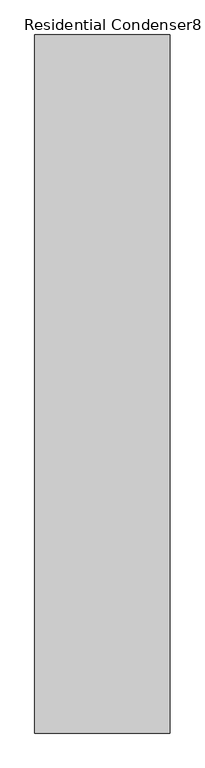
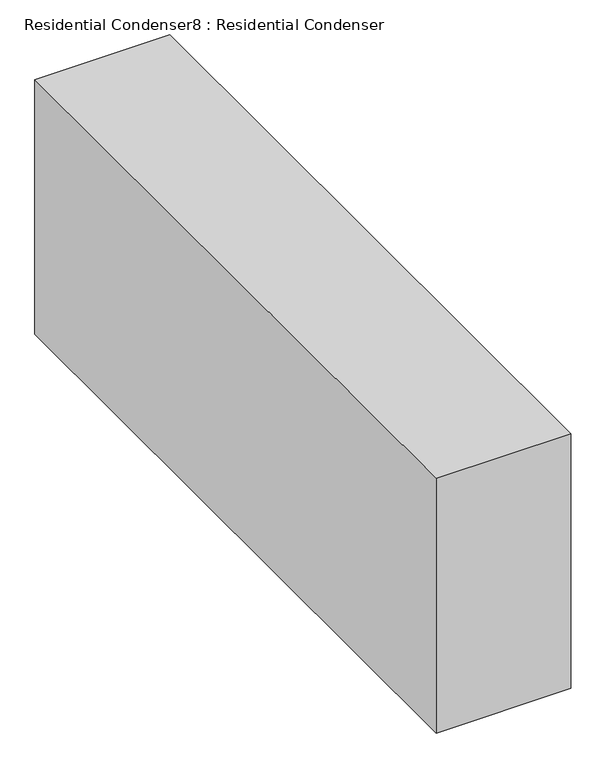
"""IFC4 building model written with IfcOpenShell, lengths in millimetres: proxy geometry, Residential Condenser8 : Residential Condenser."""

from ifc_helpers import new_model, si_unit, frame, origin, place, context, project, spatial, polyline, outline, extrude, source, transform, mapped, element, save


def residential_condenser8_residential_condenser_dc4b8cb0(model_context):
    return source(origin(), model_context, "Body", "SweptSolid", [
        extrude(outline(polyline([(13753.9954006, 18535.0), (13753.9954006, 15956.2357347), (13253.9954006, 15956.2357347), (13253.9954006, 18535.0), (13753.9954006, 18535.0)])), frame((0.0, 0.0, 54700.0), z_axis=(0.0, 0.0, 1.0), x_axis=(1.0, 0.0, 0.0)), (0.0, 0.0, 1.0), 1000.0),
    ])


if __name__ == "__main__":
    model = new_model("IFC4")
    model_context = context("Model", 3, world=origin())
    ifc_project = project(units=[si_unit("LENGTHUNIT", "METRE", prefix="MILLI")], contexts=[model_context])
    site = spatial("IfcSite", under=ifc_project)
    building = spatial("IfcBuilding", under=site)
    placement = place(None, origin())
    residential_condenser8_residential_condenser_shape = residential_condenser8_residential_condenser_dc4b8cb0(model_context)
    element("IfcBuildingElementProxy", 1, Name="Residential Condenser8 : Residential Condenser", ObjectType="Residential Condenser8 : Residential Condenser", at=placement, inside=building, context=model_context, shape_type="MappedRepresentation", body=[
        mapped(residential_condenser8_residential_condenser_shape, transform((0.0, 0.0, 0.0), x_axis=(1.0, 0.0, 0.0), y_axis=(0.0, 1.0, 0.0), z_axis=(0.0, 0.0, 1.0))),
    ])
    save(model, "model.ifc")
